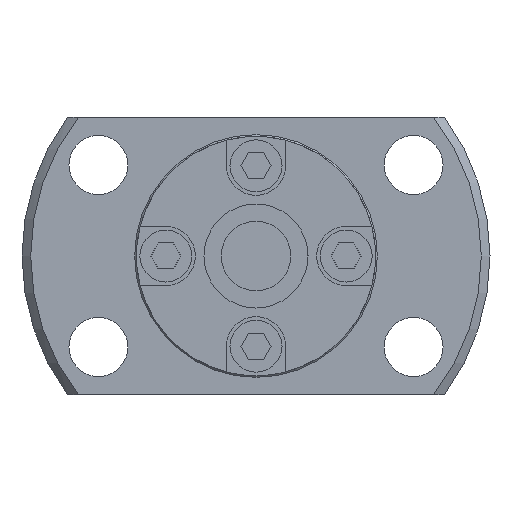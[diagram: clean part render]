
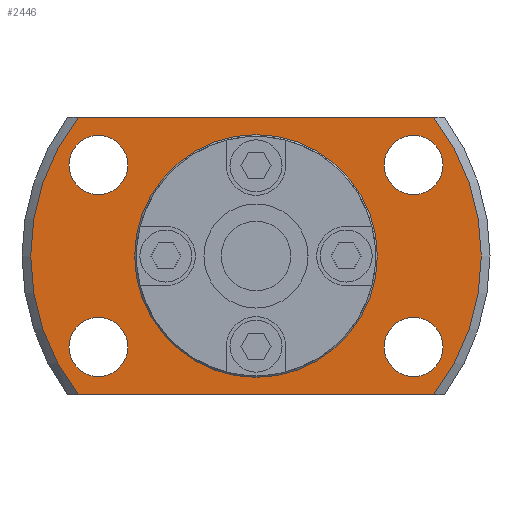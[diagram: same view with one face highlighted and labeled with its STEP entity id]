
A CAD part, left-side view. The second image highlights one B-rep face of the part: STEP entity #2446.
In plain terms, the highlighted planar face has unit normal (-1, 0, 0).
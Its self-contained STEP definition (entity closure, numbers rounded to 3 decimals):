
#122=LINE('',#3887,#346);
#123=LINE('',#3891,#347);
#346=VECTOR('',#3114,1000.);
#347=VECTOR('',#3117,1000.);
#701=ORIENTED_EDGE('',*,*,#1320,.F.);
#702=ORIENTED_EDGE('',*,*,#1321,.F.);
#703=ORIENTED_EDGE('',*,*,#1322,.F.);
#704=ORIENTED_EDGE('',*,*,#1323,.F.);
#705=ORIENTED_EDGE('',*,*,#1276,.F.);
#706=ORIENTED_EDGE('',*,*,#1324,.T.);
#707=ORIENTED_EDGE('',*,*,#1325,.F.);
#708=ORIENTED_EDGE('',*,*,#1326,.T.);
#709=ORIENTED_EDGE('',*,*,#1319,.T.);
#1276=EDGE_CURVE('',#1601,#1602,#1785,.T.);
#1319=EDGE_CURVE('',#1639,#1639,#1807,.T.);
#1320=EDGE_CURVE('',#1640,#1640,#1808,.F.);
#1321=EDGE_CURVE('',#1641,#1641,#1809,.F.);
#1322=EDGE_CURVE('',#1642,#1642,#1810,.F.);
#1323=EDGE_CURVE('',#1643,#1643,#1811,.F.);
#1324=EDGE_CURVE('',#1601,#1644,#122,.T.);
#1325=EDGE_CURVE('',#1645,#1644,#1812,.T.);
#1326=EDGE_CURVE('',#1645,#1602,#123,.T.);
#1601=VERTEX_POINT('',#3777);
#1602=VERTEX_POINT('',#3779);
#1639=VERTEX_POINT('',#3877);
#1640=VERTEX_POINT('',#3880);
#1641=VERTEX_POINT('',#3882);
#1642=VERTEX_POINT('',#3884);
#1643=VERTEX_POINT('',#3886);
#1644=VERTEX_POINT('',#3888);
#1645=VERTEX_POINT('',#3890);
#1785=CIRCLE('',#2648,13.);
#1807=CIRCLE('',#2679,6.8);
#1808=CIRCLE('',#2681,1.7);
#1809=CIRCLE('',#2682,1.7);
#1810=CIRCLE('',#2683,1.7);
#1811=CIRCLE('',#2684,1.7);
#1812=CIRCLE('',#2685,13.);
#1925=EDGE_LOOP('',(#701));
#1926=EDGE_LOOP('',(#702));
#1927=EDGE_LOOP('',(#703));
#1928=EDGE_LOOP('',(#704));
#1929=EDGE_LOOP('',(#705,#706,#707,#708));
#1930=EDGE_LOOP('',(#709));
#2147=FACE_BOUND('',#1925,.T.);
#2148=FACE_BOUND('',#1926,.T.);
#2149=FACE_BOUND('',#1927,.T.);
#2150=FACE_BOUND('',#1928,.T.);
#2151=FACE_BOUND('',#1929,.T.);
#2152=FACE_BOUND('',#1930,.T.);
#2319=PLANE('',#2680);
#2446=ADVANCED_FACE('',(#2147,#2148,#2149,#2150,#2151,#2152),#2319,.F.);
#2648=AXIS2_PLACEMENT_3D('',#3778,#3022,#3023);
#2679=AXIS2_PLACEMENT_3D('',#3876,#3102,#3103);
#2680=AXIS2_PLACEMENT_3D('',#3878,#3104,#3105);
#2681=AXIS2_PLACEMENT_3D('',#3879,#3106,#3107);
#2682=AXIS2_PLACEMENT_3D('',#3881,#3108,#3109);
#2683=AXIS2_PLACEMENT_3D('',#3883,#3110,#3111);
#2684=AXIS2_PLACEMENT_3D('',#3885,#3112,#3113);
#2685=AXIS2_PLACEMENT_3D('',#3889,#3115,#3116);
#3022=DIRECTION('',(1.,0.,0.));
#3023=DIRECTION('',(0.,0.,-1.));
#3102=DIRECTION('',(1.,0.,0.));
#3103=DIRECTION('',(0.,0.,-1.));
#3104=DIRECTION('',(1.,0.,0.));
#3105=DIRECTION('',(0.,0.,-1.));
#3106=DIRECTION('',(1.,0.,0.));
#3107=DIRECTION('',(0.,0.,-1.));
#3108=DIRECTION('',(1.,0.,0.));
#3109=DIRECTION('',(0.,0.,-1.));
#3110=DIRECTION('',(1.,0.,0.));
#3111=DIRECTION('',(0.,0.,-1.));
#3112=DIRECTION('',(1.,0.,0.));
#3113=DIRECTION('',(0.,0.,-1.));
#3114=DIRECTION('',(0.,-1.,0.));
#3115=DIRECTION('',(1.,0.,0.));
#3116=DIRECTION('',(0.,0.,-1.));
#3117=DIRECTION('',(0.,1.,0.));
#3777=CARTESIAN_POINT('',(8.,10.247,-8.));
#3778=CARTESIAN_POINT('',(8.,0.,0.));
#3779=CARTESIAN_POINT('',(8.,10.247,8.));
#3876=CARTESIAN_POINT('',(8.,0.,0.));
#3877=CARTESIAN_POINT('',(8.,0.,-6.8));
#3878=CARTESIAN_POINT('',(8.,6.8,0.));
#3879=CARTESIAN_POINT('',(8.,-9.093,-5.25));
#3880=CARTESIAN_POINT('',(8.,-9.093,-6.95));
#3881=CARTESIAN_POINT('',(8.,-9.093,5.25));
#3882=CARTESIAN_POINT('',(8.,-9.093,3.55));
#3883=CARTESIAN_POINT('',(8.,9.093,-5.25));
#3884=CARTESIAN_POINT('',(8.,9.093,-6.95));
#3885=CARTESIAN_POINT('',(8.,9.093,5.25));
#3886=CARTESIAN_POINT('',(8.,9.093,3.55));
#3887=CARTESIAN_POINT('',(8.,6.8,-8.));
#3888=CARTESIAN_POINT('',(8.,-10.247,-8.));
#3889=CARTESIAN_POINT('',(8.,0.,0.));
#3890=CARTESIAN_POINT('',(8.,-10.247,8.));
#3891=CARTESIAN_POINT('',(8.,6.8,8.));
